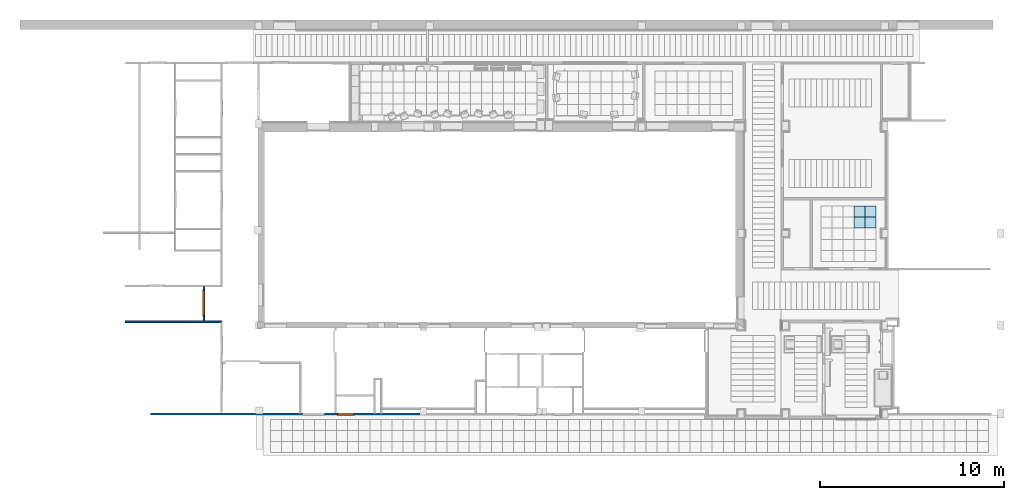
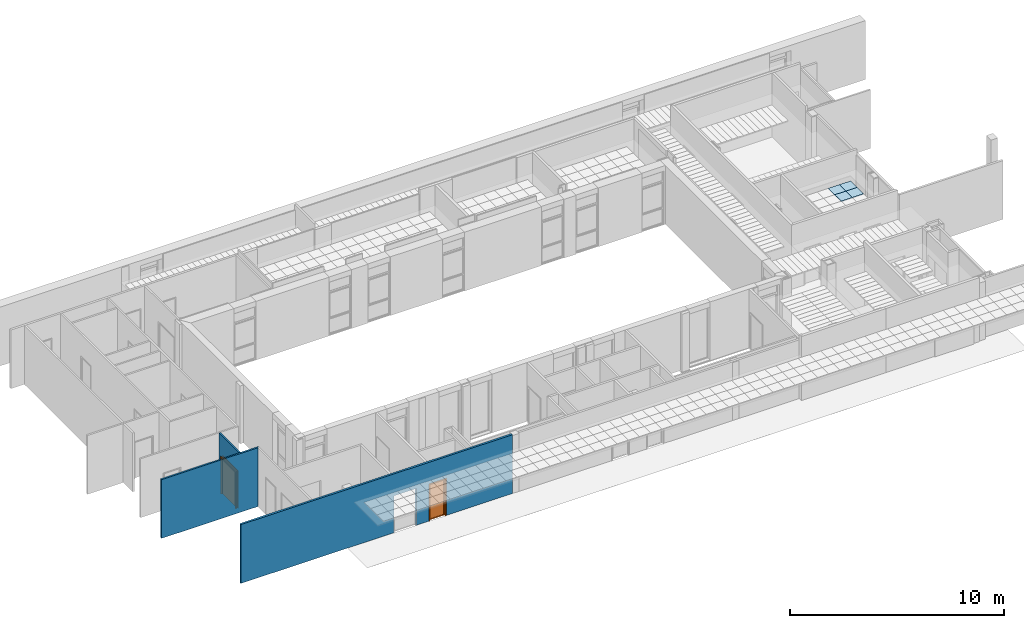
# One storey, part 22 of 60: 4 slabs, 3 walls, 2 proxies, 3 openings.
"""IFC2X3 building model written with IfcOpenShell, lengths in millimetres."""

from ifc_helpers import new_model, entity, si_unit, converted_unit, derived_unit, money_unit, direction, frame, origin_with_axes, origin_2d_with_axis, place, context, subcontext, project, spatial, polyline, rectangle, outline, extrude, open_shell, faceted_brep, surface_model, source, transform, mapped, material, layer, layer_set, layer_usage, type_object, element, fill, save


model = new_model("IFC2X3")

# Units and contexts
model_context = context("Model", 3, precision=0.01, world=origin_with_axes(), true_north=direction((0.0, 1.0)))
body_context = subcontext(model_context, "Body", "Model", "MODEL_VIEW")
ifc_project = project(units=[si_unit("LENGTHUNIT", "METRE", prefix="MILLI"), si_unit("AREAUNIT", "SQUARE_METRE"), si_unit("VOLUMEUNIT", "CUBIC_METRE"), converted_unit("PLANEANGLEUNIT", "DEGREE", entity("IfcPlaneAngleMeasure", 0.0174532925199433), si_unit("PLANEANGLEUNIT", "RADIAN"), dimensions=[0, 0, 0, 0, 0, 0, 0]), money_unit("USD"), converted_unit("TIMEUNIT", "Year", entity("IfcTimeMeasure", 31557600.0), si_unit("TIMEUNIT", "SECOND"), dimensions=[0, 0, 1, 0, 0, 0, 0]), si_unit("MASSUNIT", "GRAM", prefix="KILO"), si_unit("THERMODYNAMICTEMPERATUREUNIT", "DEGREE_CELSIUS"), si_unit("LUMINOUSINTENSITYUNIT", "LUMEN"), si_unit("ENERGYUNIT", "JOULE", prefix="MEGA"), derived_unit("THERMALCONDUCTANCEUNIT", [(si_unit("POWERUNIT", "WATT"), 1), (si_unit("LENGTHUNIT", "METRE"), -1), (si_unit("THERMODYNAMICTEMPERATUREUNIT", "KELVIN"), -1)]), derived_unit("SPECIFICHEATCAPACITYUNIT", [(si_unit("ENERGYUNIT", "JOULE"), 1), (si_unit("MASSUNIT", "GRAM", prefix="KILO"), -1), (si_unit("THERMODYNAMICTEMPERATUREUNIT", "KELVIN"), -1)]), derived_unit("MASSDENSITYUNIT", [(si_unit("MASSUNIT", "GRAM", prefix="KILO"), 1), (si_unit("VOLUMEUNIT", "CUBIC_METRE"), -1)])], contexts=[model_context])

# Site, building, storey
site_placement = place(None, origin_with_axes())
site = spatial("IfcSite", under=ifc_project, at=site_placement, Name="Sitio", CompositionType="ELEMENT")
building_placement = place(site_placement, origin_with_axes())
building = spatial("IfcBuilding", under=site, at=building_placement, Name="Construcción", CompositionType="ELEMENT")
storey_placement = place(building_placement, frame((0.0, 0.0, 3650.0), z_axis=(0.0, 0.0, 1.0), x_axis=(1.0, 0.0, 0.0)))
storey = spatial("IfcBuildingStorey", under=building, at=storey_placement, Name="PLANTA 2ª", CompositionType="ELEMENT", Elevation=3650.0)

# Slabs
ifc_material_1 = material(Name="ARQ_CE217_Armstrong 60x60")
ifc_layer_1 = layer(ifc_material_1, 50.0, ventilated="UNKNOWN")
ifc_layer_set_1 = layer_set([ifc_layer_1], Name="ARQ_CE217_Armstrong 60x60 50")
ifc_layer_usage_1 = layer_usage(ifc_layer_set_1, "AXIS3", "NEGATIVE", 50.0)
slab_type = type_object("IfcSlabType", Name="ARQ_CE217_Armstrong 60x60 50", PredefinedType="NOTDEFINED")
slab_1_placement = place(storey_placement, frame((4338.419695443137, -6931.372767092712, 2250.0), z_axis=(0.0, 0.0, 1.0), x_axis=(1.0, 0.0, 0.0)))
element("IfcSlab", 1, at=slab_1_placement, inside=storey, type_object=slab_type, material=ifc_layer_usage_1, Name="SLA - 026", PredefinedType="NOTDEFINED", context=body_context, shape_type="SweptSolid", body=[
    extrude(outline(polyline([(0.0, 0.0), (600.0000000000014, 0.0), (600.0000000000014, 600.0000000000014), (0.0, 600.0000000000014), (0.0, 0.0)])), frame((0.0, 0.0, -50.0), z_axis=(0.0, 0.0, 1.0), x_axis=(1.0, 0.0, 0.0)), (0.0, 0.0, 1.0), 50.0),
])
ifc_layer_usage_2 = layer_usage(ifc_layer_set_1, "AXIS3", "NEGATIVE", 50.0)
slab_2_placement = place(storey_placement, frame((4938.419695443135, -6931.372767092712, 2250.0), z_axis=(0.0, 0.0, 1.0), x_axis=(1.0, 0.0, 0.0)))
element("IfcSlab", 2, at=slab_2_placement, inside=storey, type_object=slab_type, material=ifc_layer_usage_2, Name="SLA - 026", PredefinedType="NOTDEFINED", context=body_context, shape_type="SweptSolid", body=[
    extrude(outline(polyline([(0.0, 0.0), (600.0000000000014, 0.0), (600.0000000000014, 600.0000000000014), (0.0, 600.0000000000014), (0.0, 0.0)])), frame((0.0, 0.0, -50.0), z_axis=(0.0, 0.0, 1.0), x_axis=(1.0, 0.0, 0.0)), (0.0, 0.0, 1.0), 50.0),
])
ifc_layer_usage_3 = layer_usage(ifc_layer_set_1, "AXIS3", "NEGATIVE", 50.0)
slab_3_placement = place(storey_placement, frame((4338.419695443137, -6331.37276709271, 2250.0), z_axis=(0.0, 0.0, 1.0), x_axis=(1.0, 0.0, 0.0)))
element("IfcSlab", 3, at=slab_3_placement, inside=storey, type_object=slab_type, material=ifc_layer_usage_3, Name="SLA - 026", PredefinedType="NOTDEFINED", context=body_context, shape_type="SweptSolid", body=[
    extrude(outline(polyline([(0.0, 0.0), (600.0000000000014, 0.0), (600.0000000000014, 600.0000000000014), (0.0, 600.0000000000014), (0.0, 0.0)])), frame((0.0, 0.0, -50.0), z_axis=(0.0, 0.0, 1.0), x_axis=(1.0, 0.0, 0.0)), (0.0, 0.0, 1.0), 50.0),
])
ifc_layer_usage_4 = layer_usage(ifc_layer_set_1, "AXIS3", "NEGATIVE", 50.0)
slab_4_placement = place(storey_placement, frame((4938.419695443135, -6331.37276709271, 2250.0), z_axis=(0.0, 0.0, 1.0), x_axis=(1.0, 0.0, 0.0)))
element("IfcSlab", 4, at=slab_4_placement, inside=storey, type_object=slab_type, material=ifc_layer_usage_4, Name="SLA - 026", PredefinedType="NOTDEFINED", context=body_context, shape_type="SweptSolid", body=[
    extrude(outline(polyline([(0.0, 0.0), (600.0000000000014, 0.0), (600.0000000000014, 600.0000000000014), (0.0, 600.0000000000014), (0.0, 0.0)])), frame((0.0, 0.0, -50.0), z_axis=(0.0, 0.0, 1.0), x_axis=(1.0, 0.0, 0.0)), (0.0, 0.0, 1.0), 50.0),
])

# Wall, openings, proxy
ifc_material_2 = material(Name="ARQ_AM246_Arrebossat_De_Guix")
ifc_layer_2 = layer(ifc_material_2, 10.0, ventilated="UNKNOWN")
ifc_material_3 = material(Name="ARQ_CE217_Gero")
ifc_layer_3 = layer(ifc_material_3, 90.0, ventilated="UNKNOWN")
ifc_layer_4 = layer(ifc_material_2, 10.0, ventilated="UNKNOWN")
ifc_layer_set_2 = layer_set([ifc_layer_2, ifc_layer_3, ifc_layer_4], Name="CR Enva Totxana")
ifc_layer_usage_5 = layer_usage(ifc_layer_set_2, "AXIS2", "POSITIVE", 0.0)
wall_type_1 = type_object("IfcWallType", Name="CR Enva Totxana 110", PredefinedType="NOTDEFINED")
wall_1_placement = place(storey_placement, frame((-33871.85959278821, -17083.97582371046, 0.0), z_axis=(0.0, 0.0, 1.0), x_axis=(1.0, 0.0, 0.0)))
wall_1 = element("IfcWallStandardCase", 5, at=wall_1_placement, inside=storey, type_object=wall_type_1, material=ifc_layer_usage_5, Name="MS-201", context=body_context, shape_type="SweptSolid", body=[
    extrude(outline(polyline([(0.0, 0.0), (14643.25058788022, 0.0), (14643.25058788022, 109.9999999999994), (0.0, 109.9999999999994), (0.0, 0.0)])), origin_with_axes(), (0.0, 0.0, 1.0), 3350.0),
])
opening_1_placement = place(wall_1_placement, frame((8849.183761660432, 0.0, 0.0), z_axis=(0.0, 0.0, 1.0), x_axis=(1.0, 0.0, 0.0)))
element("IfcOpeningElement", 6, at=opening_1_placement, cuts=wall_1, Name="PF-04D", context=body_context, shape_type="SweptSolid", body=[
    extrude(rectangle(XDim=1200.000000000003, YDim=2100.0, at=origin_2d_with_axis()), frame((0.0, -109.9999999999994, 1050.0), z_axis=(0.0, -1.0, 0.0), x_axis=(-1.0, 0.0, 0.0)), (0.0, 0.0, -1.0), 329.9999999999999),
    extrude(rectangle(XDim=1244.0, YDim=2122.0, at=origin_2d_with_axis()), frame((0.0, 0.0, 1061.0), z_axis=(0.0, -1.0, 0.0), x_axis=(-1.0, 0.0, 0.0)), (0.0, 0.0, 1.0), 110.0),
    extrude(rectangle(XDim=1244.0, YDim=2122.0, at=origin_2d_with_axis()), frame((0.0, 110.000000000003, 1061.0), z_axis=(0.0, 1.0, 0.0), x_axis=(-1.0, 0.0, 0.0)), (0.0, 0.0, 1.0), 110.0),
])
opening_2_placement = place(wall_1_placement, frame((10599.18376166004, 0.0, 0.0), z_axis=(0.0, 0.0, 1.0), x_axis=(1.0, 0.0, 0.0)))
opening_2 = element("IfcOpeningElement", 7, at=opening_2_placement, cuts=wall_1, Name="PF-05D", context=body_context, shape_type="SweptSolid", body=[
    extrude(rectangle(XDim=899.9999999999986, YDim=2100.0, at=origin_2d_with_axis()), frame((0.0, -109.9999999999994, 1050.0), z_axis=(0.0, -1.0, 0.0), x_axis=(-1.0, 0.0, 0.0)), (0.0, 0.0, -1.0), 329.9999999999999),
    extrude(rectangle(XDim=944.0000000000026, YDim=2122.0, at=origin_2d_with_axis()), frame((0.0, 0.0, 1061.0), z_axis=(0.0, -1.0, 0.0), x_axis=(-1.0, 0.0, 0.0)), (0.0, 0.0, 1.0), 110.0),
    extrude(rectangle(XDim=944.0000000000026, YDim=2122.0, at=origin_2d_with_axis()), frame((0.0, 110.000000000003, 1061.0), z_axis=(0.0, 1.0, 0.0), x_axis=(-1.0, 0.0, 0.0)), (0.0, 0.0, 1.0), 110.0),
])
building_element_proxy_type_1 = type_object("IfcBuildingElementProxyType", Name="Puerta 27", PredefinedType="NOTDEFINED")
shared_shape_1 = source(origin_with_axes(), body_context, "Body", "SurfaceModel", [
    faceted_brep([(472.0000000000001, -129.0, 0.0), (422.0000000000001, -129.0, 0.0), (422.0000000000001, -110.0, 0.0), (472.0000000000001, -110.0, 0.0), (472.0000000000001, -129.0000000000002, 2122.0), (422.0000000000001, -129.0000000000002, 2072.0), (422.0000000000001, -110.0000000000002, 2072.0), (472.0000000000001, -110.0000000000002, 2122.0)], [[[0, 1, 2, 3]], [[0, 4, 5, 1]], [[1, 5, 6, 2]], [[3, 2, 6, 7]], [[4, 0, 3, 7]], [[5, 4, 7, 6]]]),
    faceted_brep([(-472.0000000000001, -129.0000000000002, 2122.0), (-422.0000000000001, -129.0000000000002, 2072.0), (-422.0000000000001, -110.0000000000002, 2072.0), (-472.0000000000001, -110.0000000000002, 2122.0), (-472.0000000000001, -129.0, 0.0), (-422.0000000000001, -129.0, 0.0), (-422.0000000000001, -110.0, 0.0), (-472.0000000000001, -110.0, 0.0)], [[[0, 1, 2, 3]], [[0, 4, 5, 1]], [[1, 5, 6, 2]], [[3, 2, 6, 7]], [[4, 0, 3, 7]], [[5, 4, 7, 6]]]),
    faceted_brep([(472.0000000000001, -129.0000000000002, 2122.0), (422.0000000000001, -129.0000000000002, 2072.0), (422.0000000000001, -110.0000000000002, 2072.0), (472.0000000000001, -110.0000000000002, 2122.0), (-472.0000000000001, -129.0000000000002, 2122.0), (-422.0000000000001, -129.0000000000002, 2072.0), (-422.0000000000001, -110.0000000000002, 2072.0), (-472.0000000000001, -110.0000000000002, 2122.0)], [[[0, 1, 2, 3]], [[0, 4, 5, 1]], [[1, 5, 6, 2]], [[3, 2, 6, 7]], [[4, 0, 3, 7]], [[5, 4, 7, 6]]]),
    faceted_brep([(472.0000000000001, 19.0, 0.0), (472.0000000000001, 0.0, 0.0), (422.0000000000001, 0.0, 0.0), (422.0000000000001, 19.0, 0.0), (472.0000000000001, 18.99999999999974, 2122.0), (472.0000000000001, 0.0, 2122.0), (422.0000000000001, 0.0, 2072.0), (422.0000000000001, 18.99999999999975, 2072.0)], [[[0, 1, 2, 3]], [[4, 5, 1, 0]], [[1, 5, 6, 2]], [[3, 2, 6, 7]], [[0, 3, 7, 4]], [[7, 6, 5, 4]]]),
    faceted_brep([(-472.0000000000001, 18.99999999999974, 2122.0), (-472.0000000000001, 0.0, 2122.0), (-422.0000000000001, 0.0, 2072.0), (-422.0000000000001, 18.99999999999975, 2072.0), (-472.0000000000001, 19.0, 0.0), (-472.0000000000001, 0.0, 0.0), (-422.0000000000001, 0.0, 0.0), (-422.0000000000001, 19.0, 0.0)], [[[0, 1, 2, 3]], [[4, 5, 1, 0]], [[1, 5, 6, 2]], [[3, 2, 6, 7]], [[0, 3, 7, 4]], [[7, 6, 5, 4]]]),
    faceted_brep([(472.0000000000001, 18.99999999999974, 2122.0), (472.0000000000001, 0.0, 2122.0), (422.0, 0.0, 2072.0), (422.0, 18.99999999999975, 2072.0), (-472.0000000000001, 18.99999999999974, 2122.0), (-472.0000000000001, 0.0, 2122.0), (-422.0, 0.0, 2072.0), (-422.0, 18.99999999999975, 2072.0)], [[[0, 1, 2, 3]], [[4, 5, 1, 0]], [[1, 5, 6, 2]], [[3, 2, 6, 7]], [[0, 3, 7, 4]], [[7, 6, 5, 4]]]),
    faceted_brep([(409.9999999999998, -40.0, 0.0), (410.0000000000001, -110.0, 0.0), (410.0000000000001, -110.0, 2060.0), (410.0000000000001, -40.0, 2060.0), (422.0000000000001, -40.0, 0.0), (422.0000000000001, 0.0, 0.0), (449.9999999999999, 0.0, 0.0), (449.9999999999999, -110.0, 0.0), (449.9999999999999, -110.0, 2060.0), (422.0000000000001, -40.0, 2060.0), (449.9999999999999, 0.0, 2060.0), (422.0000000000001, 0.0, 2060.0)], [[[0, 1, 2, 3]], [[4, 5, 6, 7, 1, 0]], [[1, 7, 8, 2]], [[9, 3, 2, 8, 10, 11]], [[9, 4, 0, 3]], [[11, 5, 4, 9]], [[11, 10, 6, 5]], [[6, 10, 8, 7]]]),
    faceted_brep([(-422.0000000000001, -40.0, 2060.0), (-422.0000000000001, 0.0, 2060.0), (-449.9999999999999, 0.0, 2060.0), (-449.9999999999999, -110.0, 2060.0), (-410.0000000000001, -110.0, 2060.0), (-410.0000000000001, -40.0, 2060.0), (-422.0000000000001, -40.0, 0.0), (-422.0000000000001, 0.0, 0.0), (-449.9999999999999, 0.0, 0.0), (-449.9999999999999, -110.0, 0.0), (-410.0000000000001, -110.0, 0.0), (-410.0000000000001, -40.0, 0.0)], [[[0, 1, 2, 3, 4, 5]], [[0, 6, 7, 1]], [[7, 8, 2, 1]], [[2, 8, 9, 3]], [[3, 9, 10, 4]], [[5, 4, 10, 11]], [[5, 11, 6, 0]], [[6, 11, 10, 9, 8, 7]]]),
    faceted_brep([(422.0000000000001, 0.0, 2072.0), (-422.0000000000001, 0.0, 2072.0), (-422.0000000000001, 0.0, 2060.0), (-450.0, 0.0, 2060.0), (-450.0, 0.0, 2100.0), (450.0, 0.0, 2100.0), (450.0, 0.0, 2060.0), (422.0000000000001, 0.0, 2060.0), (422.0000000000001, -40.0, 2072.0), (-422.0000000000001, -40.0, 2072.0), (-422.0000000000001, -40.0, 2060.0), (-410.0000000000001, -40.0, 2060.0), (-410.0000000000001, -110.0, 2060.0), (-450.0, -110.0, 2060.0), (-450.0, -110.0, 2100.0), (450.0, -110.0, 2100.0), (450.0, -110.0, 2060.0), (422.0000000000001, -40.0, 2060.0), (410.0000000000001, -110.0, 2060.0), (410.0000000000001, -40.0, 2060.0)], [[[0, 1, 2, 3, 4, 5, 6, 7]], [[0, 8, 9, 1]], [[1, 9, 10, 2]], [[10, 11, 12, 13, 3, 2]], [[4, 3, 13, 14]], [[5, 4, 14, 15]], [[6, 5, 15, 16]], [[17, 7, 6, 16, 18, 19]], [[7, 17, 8, 0]], [[10, 9, 8, 17, 19, 11]], [[19, 18, 12, 11]], [[12, 18, 16, 15, 14, 13]]]),
    faceted_brep([(-421.9999999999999, 0.0, 50.0), (-371.9999999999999, 0.0, 50.0), (-371.9999999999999, -40.0, 50.0), (-421.9999999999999, -40.0, 50.0), (-421.9999999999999, 0.0, 2022.0), (-371.9999999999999, 0.0, 2022.0), (-371.9999999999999, -40.00000000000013, 2022.0), (-421.9999999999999, -40.00000000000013, 2022.0)], [[[0, 1, 2, 3]], [[0, 4, 5, 1]], [[1, 5, 6, 2]], [[3, 2, 6, 7]], [[4, 0, 3, 7]], [[5, 4, 7, 6]]]),
    faceted_brep([(422.0000000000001, 0.0, 50.0), (422.0000000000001, 0.0, 2022.0), (422.0000000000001, -40.00000000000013, 2022.0), (422.0000000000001, -40.0, 50.0), (372.0000000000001, 0.0, 50.0), (372.0000000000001, 0.0, 2022.0), (372.0000000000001, -40.00000000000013, 2022.0), (372.0000000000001, -40.0, 50.0)], [[[0, 1, 2, 3]], [[0, 4, 5, 1]], [[1, 5, 6, 2]], [[3, 2, 6, 7]], [[4, 0, 3, 7]], [[5, 4, 7, 6]]]),
    faceted_brep([(-421.9999999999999, 0.0, 0.0), (422.0000000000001, 0.0, 0.0), (422.0000000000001, -40.0, 0.0), (-421.9999999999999, -40.0, 0.0), (-421.9999999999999, 0.0, 50.0), (-371.9999999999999, 0.0, 50.0), (372.0000000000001, 0.0, 50.0), (422.0000000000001, 0.0, 50.0), (422.0000000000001, -40.0, 50.0), (372.0000000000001, -40.0, 50.0), (-371.9999999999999, -40.0, 50.0), (-421.9999999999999, -40.0, 50.0)], [[[0, 1, 2, 3]], [[0, 4, 5, 6, 7, 1]], [[1, 7, 8, 2]], [[3, 2, 8, 9, 10, 11]], [[4, 0, 3, 11]], [[5, 4, 11, 10]], [[6, 5, 10, 9]], [[7, 6, 9, 8]]]),
    faceted_brep([(-421.9999999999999, 0.0, 2072.0), (-421.9999999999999, 0.0, 2022.0), (-421.9999999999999, -40.00000000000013, 2022.0), (-421.9999999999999, -40.00000000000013, 2072.0), (422.0000000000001, 0.0, 2072.0), (422.0000000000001, 0.0, 2022.0), (372.0000000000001, 0.0, 2022.0), (-371.9999999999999, 0.0, 2022.0), (-371.9999999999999, -40.00000000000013, 2022.0), (372.0000000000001, -40.00000000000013, 2022.0), (422.0000000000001, -40.00000000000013, 2022.0), (422.0000000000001, -40.00000000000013, 2072.0)], [[[0, 1, 2, 3]], [[0, 4, 5, 6, 7, 1]], [[1, 7, 8, 2]], [[3, 2, 8, 9, 10, 11]], [[4, 0, 3, 11]], [[5, 4, 11, 10]], [[6, 5, 10, 9]], [[7, 6, 9, 8]]]),
    surface_model("IfcShellBasedSurfaceModel", [(-371.9999999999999, -14.0, 50.0), (-371.9999999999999, -14.0, 2022.0), (372.0000000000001, -14.0, 2022.0), (372.0000000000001, -14.0, 50.0)], [open_shell([[[0, 1, 2, 3]]])]),
    surface_model("IfcShellBasedSurfaceModel", [(-371.9999999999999, -26.0, 50.0), (372.0000000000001, -26.0, 50.0), (372.0000000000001, -26.0, 2022.0), (-371.9999999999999, -26.0, 2022.0)], [open_shell([[[0, 1, 2, 3]]])]),
])
proxy_1_placement = place(opening_2_placement, frame((-449.9999999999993, 0.0, 0.0), z_axis=(0.0, 0.0, 1.0), x_axis=(1.0, 0.0, 0.0)))
proxy_1 = element("IfcBuildingElementProxy", 8, at=proxy_1_placement, inside=storey, type_object=building_element_proxy_type_1, Name="PF-05D", context=body_context, shape_type="MappedRepresentation", body=[
    mapped(shared_shape_1, transform((449.9999999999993, 110.000000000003, 0.0))),
])
fill(opening_2, proxy_1)

# Wall, opening, proxy
ifc_layer_5 = layer(ifc_material_2, 10.0, ventilated="UNKNOWN")
ifc_layer_6 = layer(ifc_material_3, 70.0, ventilated="UNKNOWN")
ifc_layer_7 = layer(ifc_material_2, 10.0, ventilated="UNKNOWN")
ifc_layer_set_3 = layer_set([ifc_layer_5, ifc_layer_6, ifc_layer_7], Name="CR Enva Totxaneta")
ifc_layer_usage_6 = layer_usage(ifc_layer_set_3, "AXIS2", "POSITIVE", 0.0)
wall_type_2 = type_object("IfcWallType", Name="CR Enva Totxaneta 90", PredefinedType="NOTDEFINED")
wall_2_placement = place(storey_placement, frame((-30935.83759246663, -11969.72824973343, 0.0), z_axis=(0.0, 0.0, 1.0), x_axis=(0.0, 1.0, 0.0)))
wall_2 = element("IfcWallStandardCase", 9, at=wall_2_placement, inside=storey, type_object=wall_type_2, material=ifc_layer_usage_6, Name="MS-203", context=body_context, shape_type="SweptSolid", body=[
    extrude(outline(polyline([(0.0, 0.0), (1859.32068673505, 0.0), (1859.32068673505, 89.99999999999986), (0.0, 89.99999999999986), (0.0, 0.0)])), origin_with_axes(), (0.0, 0.0, 1.0), 3350.0),
])
opening_3_placement = place(wall_2_placement, frame((974.6603433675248, 0.0, 0.0), z_axis=(0.0, 0.0, 1.0), x_axis=(1.0, 0.0, 0.0)))
opening_3 = element("IfcOpeningElement", 10, at=opening_3_placement, cuts=wall_2, Name="PF-32D", context=body_context, shape_type="SweptSolid", body=[
    extrude(rectangle(XDim=1399.999999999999, YDim=2100.0, at=origin_2d_with_axis()), frame((0.0, 89.99999999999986, 1050.0), z_axis=(0.0, -1.0, 0.0), x_axis=(-1.0, 0.0, 0.0)), (0.0, 0.0, 1.0), 270.0),
    extrude(rectangle(XDim=1474.0, YDim=2137.0, at=origin_2d_with_axis()), frame((0.0, 89.99999999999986, 1068.5), z_axis=(0.0, -1.0, 0.0), x_axis=(-1.0, 0.0, 0.0)), (0.0, 0.0, -1.0), 90.0),
    extrude(rectangle(XDim=1474.0, YDim=2137.0, at=origin_2d_with_axis()), frame((0.0, 0.0, 1068.5), z_axis=(0.0, 1.0, 0.0), x_axis=(-1.0, 0.0, 0.0)), (0.0, 0.0, -1.0), 90.0),
])
building_element_proxy_type_2 = type_object("IfcBuildingElementProxyType", Name="Puerta Doble 27", PredefinedType="NOTDEFINED")
shared_shape_2 = source(origin_with_axes(), body_context, "Body", "Brep", [
    faceted_brep([(-737.0, -109.0, 0.0), (-737.0, -90.0, 0.0), (-687.0, -90.0, 0.0), (-687.0, -109.0, 0.0), (-737.0, -109.0000000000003, 2137.0), (-737.0, -90.00000000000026, 2137.0), (-687.0, -90.00000000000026, 2087.0), (-687.0, -109.0000000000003, 2087.0)], [[[0, 1, 2, 3]], [[4, 5, 1, 0]], [[1, 5, 6, 2]], [[3, 2, 6, 7]], [[0, 3, 7, 4]], [[7, 6, 5, 4]]]),
    faceted_brep([(737.0, -109.0000000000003, 2137.0), (737.0, -90.00000000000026, 2137.0), (687.0, -90.00000000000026, 2087.0), (687.0, -109.0000000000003, 2087.0), (737.0, -109.0, 0.0), (737.0, -90.0, 0.0), (687.0, -90.0, 0.0), (687.0, -109.0, 0.0)], [[[0, 1, 2, 3]], [[4, 5, 1, 0]], [[1, 5, 6, 2]], [[3, 2, 6, 7]], [[0, 3, 7, 4]], [[7, 6, 5, 4]]]),
    faceted_brep([(-737.0, -109.0000000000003, 2137.0), (-737.0, -90.00000000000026, 2137.0), (-687.0, -90.00000000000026, 2087.0), (-687.0, -109.0000000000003, 2087.0), (737.0, -109.0000000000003, 2137.0), (737.0, -90.00000000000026, 2137.0), (687.0, -90.00000000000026, 2087.0), (687.0, -109.0000000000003, 2087.0)], [[[0, 1, 2, 3]], [[4, 5, 1, 0]], [[1, 5, 6, 2]], [[3, 2, 6, 7]], [[0, 3, 7, 4]], [[7, 6, 5, 4]]]),
    faceted_brep([(-737.0, 19.0, 0.0), (-687.0, 19.0, 0.0), (-687.0, 0.0, 0.0), (-737.0, 0.0, 0.0), (-737.0, 18.99999999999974, 2137.0), (-687.0, 18.99999999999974, 2087.0), (-687.0, 0.0, 2087.0), (-737.0, 0.0, 2137.0)], [[[0, 1, 2, 3]], [[0, 4, 5, 1]], [[1, 5, 6, 2]], [[3, 2, 6, 7]], [[4, 0, 3, 7]], [[5, 4, 7, 6]]]),
    faceted_brep([(737.0, 18.99999999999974, 2137.0), (687.0, 18.99999999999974, 2087.0), (687.0, 0.0, 2087.0), (737.0, 0.0, 2137.0), (737.0, 19.0, 0.0), (687.0, 19.0, 0.0), (687.0, 0.0, 0.0), (737.0, 0.0, 0.0)], [[[0, 1, 2, 3]], [[0, 4, 5, 1]], [[1, 5, 6, 2]], [[3, 2, 6, 7]], [[4, 0, 3, 7]], [[5, 4, 7, 6]]]),
    faceted_brep([(-737.0, 18.99999999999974, 2137.0), (-687.0, 18.99999999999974, 2087.0), (-687.0, 0.0, 2087.0), (-737.0, 0.0, 2137.0), (737.0, 18.99999999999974, 2137.0), (687.0, 18.99999999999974, 2087.0), (687.0, 0.0, 2087.0), (737.0, 0.0, 2137.0)], [[[0, 1, 2, 3]], [[0, 4, 5, 1]], [[1, 5, 6, 2]], [[3, 2, 6, 7]], [[4, 0, 3, 7]], [[5, 4, 7, 6]]]),
    faceted_brep([(-659.9999999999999, -40.0, 0.0), (-659.9999999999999, -39.99999999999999, 2060.0), (-659.9999999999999, -115.0, 2060.0), (-659.9999999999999, -115.0, 0.0), (-671.9999999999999, -40.0, 2060.0), (-671.9999999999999, -40.0, 0.0), (-671.9999999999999, 0.0, 2060.0), (-700.0, 0.0, 2060.0), (-700.0, -115.0, 2060.0), (-700.0, -115.0, 0.0), (-700.0, 0.0, 0.0), (-671.9999999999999, 0.0, 0.0)], [[[0, 1, 2, 3]], [[4, 1, 0, 5]], [[4, 6, 7, 8, 2, 1]], [[3, 2, 8, 9]], [[5, 0, 3, 9, 10, 11]], [[6, 4, 5, 11]], [[6, 11, 10, 7]], [[10, 9, 8, 7]]]),
    faceted_brep([(671.9999999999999, -40.0, 2060.0), (659.9999999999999, -39.99999999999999, 2060.0), (659.9999999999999, -115.0, 2060.0), (700.0, -115.0, 2060.0), (700.0, 0.0, 2060.0), (671.9999999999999, 0.0, 2060.0), (671.9999999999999, -40.0, 0.0), (659.9999999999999, -40.0, 0.0), (659.9999999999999, -115.0, 0.0), (700.0, -115.0, 0.0), (700.0, 0.0, 0.0), (671.9999999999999, 0.0, 0.0)], [[[0, 1, 2, 3, 4, 5]], [[1, 0, 6, 7]], [[1, 7, 8, 2]], [[3, 2, 8, 9]], [[4, 3, 9, 10]], [[11, 5, 4, 10]], [[0, 5, 11, 6]], [[6, 11, 10, 9, 8, 7]]]),
    faceted_brep([(-671.9999999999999, 0.0, 2072.0), (-671.9999999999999, 0.0, 2060.0), (-700.0, 0.0, 2060.0), (-700.0, 0.0, 2100.0), (700.0, 0.0, 2100.0), (700.0, 0.0, 2060.0), (671.9999999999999, 0.0, 2060.0), (671.9999999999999, 0.0, 2072.0), (-671.9999999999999, -40.0, 2072.0), (-671.9999999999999, -40.0, 2060.0), (-659.9999999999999, -39.99999999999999, 2060.0), (-659.9999999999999, -115.0, 2060.0), (-700.0, -115.0, 2060.0), (-700.0, -115.0, 2100.0), (700.0, -115.0, 2100.0), (700.0, -115.0, 2060.0), (671.9999999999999, -40.0, 2060.0), (659.9999999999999, -115.0, 2060.0), (659.9999999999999, -39.99999999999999, 2060.0), (671.9999999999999, -40.0, 2072.0)], [[[0, 1, 2, 3, 4, 5, 6, 7]], [[1, 0, 8, 9]], [[9, 10, 11, 12, 2, 1]], [[2, 12, 13, 3]], [[3, 13, 14, 4]], [[4, 14, 15, 5]], [[16, 6, 5, 15, 17, 18]], [[7, 6, 16, 19]], [[0, 7, 19, 8]], [[16, 18, 10, 9, 8, 19]], [[10, 18, 17, 11]], [[17, 15, 14, 13, 12, 11]]]),
    faceted_brep([(671.9999999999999, 0.0, 0.0), (671.9999999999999, -40.0, 0.0), (0.0, -40.0, 0.0), (0.0, 0.0, 0.0), (671.9999999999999, 0.0, 2072.0), (671.9999999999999, -40.00000000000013, 2072.0), (0.0, -40.00000000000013, 2072.0), (0.0, 0.0, 2072.0)], [[[0, 1, 2, 3]], [[4, 5, 1, 0]], [[1, 5, 6, 2]], [[3, 2, 6, 7]], [[0, 3, 7, 4]], [[7, 6, 5, 4]]]),
    faceted_brep([(-671.9999999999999, 0.0, 0.0), (0.0, 0.0, 0.0), (0.0, -40.0, 0.0), (-671.9999999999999, -40.0, 0.0), (-671.9999999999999, 0.0, 2072.0), (0.0, 0.0, 2072.0), (0.0, -40.00000000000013, 2072.0), (-671.9999999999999, -40.00000000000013, 2072.0)], [[[0, 1, 2, 3]], [[0, 4, 5, 1]], [[1, 5, 6, 2]], [[3, 2, 6, 7]], [[4, 0, 3, 7]], [[5, 4, 7, 6]]]),
])
proxy_2_placement = place(opening_3_placement, frame((699.9999999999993, 0.0, 0.0), z_axis=(0.0, 0.0, 1.0), x_axis=(-1.0, 0.0, 0.0)))
proxy_2 = element("IfcBuildingElementProxy", 11, at=proxy_2_placement, inside=storey, type_object=building_element_proxy_type_2, Name="PF-32D", context=body_context, shape_type="MappedRepresentation", body=[
    mapped(shared_shape_2, transform((699.9999999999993, 0.0, 0.0))),
])
fill(opening_3, proxy_2)

# Wall
ifc_layer_usage_7 = layer_usage(ifc_layer_set_3, "AXIS2", "POSITIVE", 0.0)
wall_3_placement = place(storey_placement, frame((-29972.67583112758, -11969.72824973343, 0.0), z_axis=(0.0, 0.0, 1.0), x_axis=(-1.0, 0.0, 0.0)))
element("IfcWallStandardCase", 12, at=wall_3_placement, inside=storey, type_object=wall_type_2, material=ifc_layer_usage_7, Name="MS-203", context=body_context, shape_type="SweptSolid", body=[
    extrude(outline(polyline([(0.0, 0.0), (5277.909155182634, 0.0), (5277.909155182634, 89.99999999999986), (89.99999999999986, 89.99999999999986), (0.0, 0.0)])), origin_with_axes(), (0.0, 0.0, 1.0), 3350.0),
])

save(model, "model.ifc")
